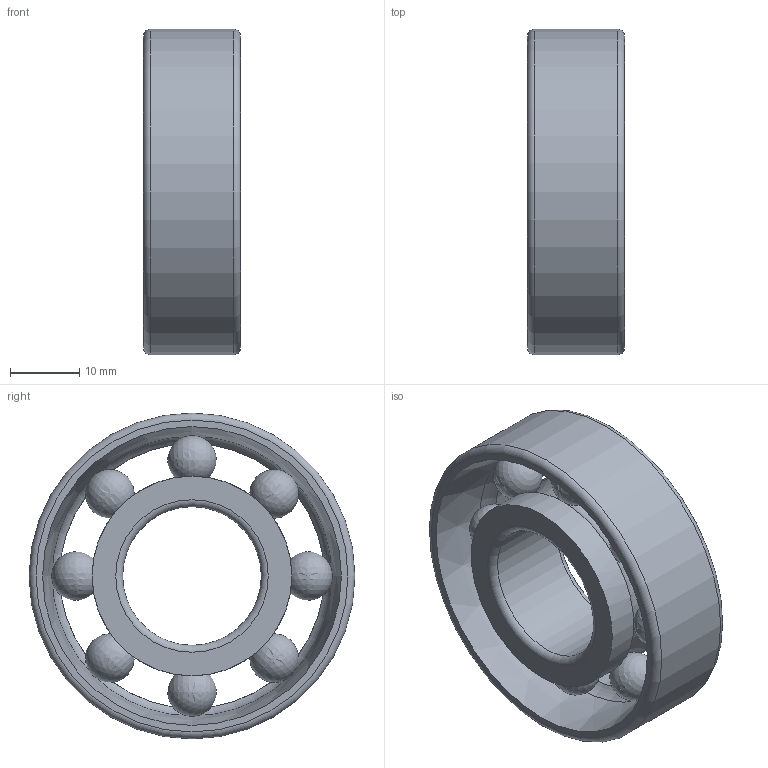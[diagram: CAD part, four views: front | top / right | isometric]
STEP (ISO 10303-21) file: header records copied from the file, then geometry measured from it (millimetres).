
FILE_DESCRIPTION(/* description */ ('앵귤러 콘택트 볼 베어링'),/* implementation_level */ '2;1');
FILE_NAME(/* name */ '',/* time_stamp */ '2024-11-28T15:19:36+09:00',/* author */ ('jhkim'),/* organization */ (''),/* preprocessor_version */ 'ST-DEVELOPER v20',/* originating_system */ 'Autodesk Inventor 2025',/* authorisation */ '');
FILE_SCHEMA (('AUTOMOTIVE_DESIGN { 1 0 10303 214 3 1 1 }'));
Length unit declared in the file: millimetre
Products named in the file (1): 앵귤러 볼 베어링 
7204A
Bounding box: 14 x 47 x 47 mm (x, y, z)
Volume: 12085.7 mm3; surface area: 8672.9 mm2
Topology: 10 solids, 10 shells, 38 faces, 98 edges, 64 vertices
Faces by surface type: torus 20, sphere 8, cylinder 5, plane 4, cone 1
Full cylindrical faces by diameter (mm): 20 x1, 28.802 x2, 38.198 x1, 47 x1
Entity records: 1392 total; most frequent: DIRECTION 268, CARTESIAN_POINT 233, ORIENTED_EDGE 196, AXIS2_PLACEMENT_3D 131, EDGE_CURVE 98, VERTEX_POINT 96, CIRCLE 92, EDGE_LOOP 58
